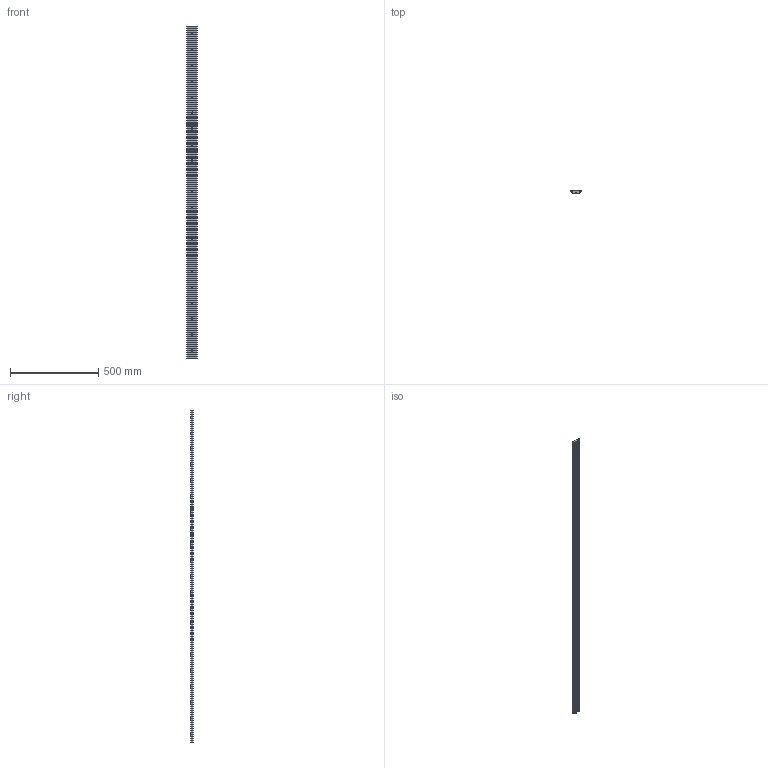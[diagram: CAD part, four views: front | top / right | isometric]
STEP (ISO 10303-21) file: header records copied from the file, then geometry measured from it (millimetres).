
FILE_DESCRIPTION(('STEP AP203'),'1');
FILE_NAME('slide_nm60l1886p1.stp','2022-07-01T04:41:18',('TraceParts'),('TraceParts S.A.'),'Spatial InterOp 3D',' ',' ');
FILE_SCHEMA(('CONFIG_CONTROL_DESIGN'));
Length unit declared in the file: millimetre
Products named in the file (1): 1
Bounding box: 59.61 x 15.5 x 1886 mm (x, y, z)
Volume: 1221656.8 mm3; surface area: 296318.8 mm2
Topology: 1 solids, 1 shells, 145 faces, 366 edges, 244 vertices
Faces by surface type: cylinder 98, plane 47
Entity records: 4584 total; most frequent: DIRECTION 854, CARTESIAN_POINT 756, ORIENTED_EDGE 732, EDGE_CURVE 366, AXIS2_PLACEMENT_3D 342, VERTEX_POINT 244, EDGE_LOOP 208, CIRCLE 196
